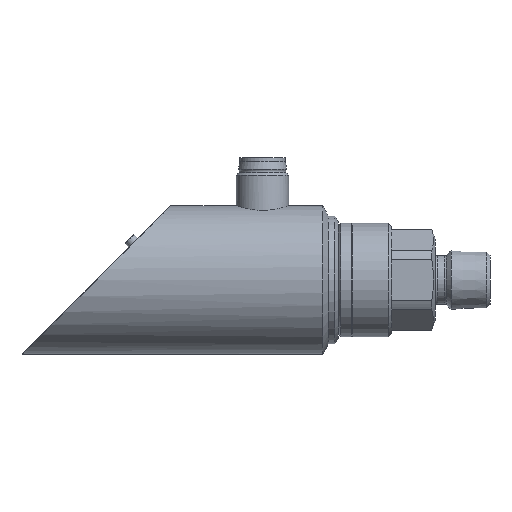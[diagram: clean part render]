
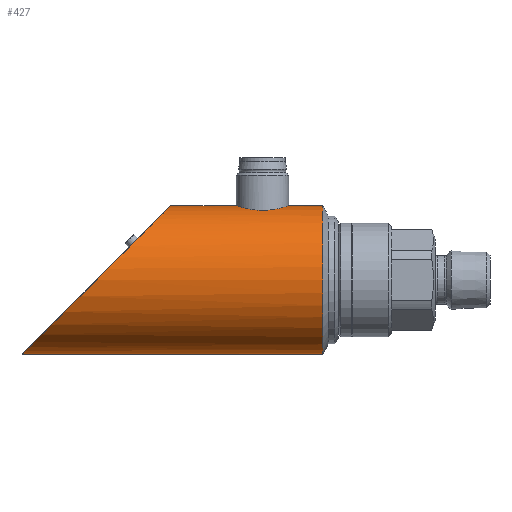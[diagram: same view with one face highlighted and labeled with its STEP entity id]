
A CAD part, left-side view. The second image highlights one B-rep face of the part: STEP entity #427.
In plain terms, the highlighted cylindrical face has radius 17 mm (diameter 34 mm), a full revolution.
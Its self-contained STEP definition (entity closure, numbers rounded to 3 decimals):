
#359=CARTESIAN_POINT('',(0.,60.107,0.0));
#360=DIRECTION('',(0.,1.0,0.0));
#361=DIRECTION('',(-1.0,0.0,0.0));
#362=AXIS2_PLACEMENT_3D('',#359,#360,#361);
#363=CYLINDRICAL_SURFACE('',#362,17.);
#364=CARTESIAN_POINT('',(0.,94.5,-17.));
#365=VERTEX_POINT('',#364);
#366=CARTESIAN_POINT('',(0.,77.5,0.0));
#367=DIRECTION('',(0.0,-0.707,-0.707));
#368=DIRECTION('',(0.,-0.707,0.707));
#369=AXIS2_PLACEMENT_3D('',#366,#367,#368);
#370=ELLIPSE('',#369,24.042,17.);
#371=EDGE_CURVE('',#365,#365,#370,.T.);
#372=ORIENTED_EDGE('',*,*,#371,.T.);
#373=EDGE_LOOP('',(#372));
#374=FACE_OUTER_BOUND('',#373,.T.);
#375=CARTESIAN_POINT('',(-6.0,39.5,15.906));
#376=VERTEX_POINT('',#375);
#377=CARTESIAN_POINT('',(-6.0,39.5,15.906));
#378=CARTESIAN_POINT('',(-6.,40.261,15.906));
#379=CARTESIAN_POINT('',(-5.847,41.067,15.966));
#380=CARTESIAN_POINT('',(-5.232,42.543,16.178));
#381=CARTESIAN_POINT('',(-4.772,43.213,16.326));
#382=CARTESIAN_POINT('',(-3.714,44.272,16.598));
#383=CARTESIAN_POINT('',(-3.043,44.732,16.742));
#384=CARTESIAN_POINT('',(-1.567,45.347,16.944));
#385=CARTESIAN_POINT('',(-0.76,45.5,17.));
#386=CARTESIAN_POINT('',(0.76,45.5,17.));
#387=CARTESIAN_POINT('',(1.567,45.347,16.944));
#388=CARTESIAN_POINT('',(3.043,44.732,16.742));
#389=CARTESIAN_POINT('',(3.714,44.272,16.598));
#390=CARTESIAN_POINT('',(4.772,43.213,16.326));
#391=CARTESIAN_POINT('',(5.232,42.543,16.178));
#392=CARTESIAN_POINT('',(5.847,41.067,15.966));
#393=CARTESIAN_POINT('',(6.,40.261,15.906));
#394=CARTESIAN_POINT('',(6.,38.739,15.906));
#395=CARTESIAN_POINT('',(5.847,37.933,15.966));
#396=CARTESIAN_POINT('',(5.232,36.457,16.178));
#397=CARTESIAN_POINT('',(4.772,35.787,16.326));
#398=CARTESIAN_POINT('',(3.714,34.728,16.598));
#399=CARTESIAN_POINT('',(3.043,34.268,16.742));
#400=CARTESIAN_POINT('',(1.567,33.653,16.944));
#401=CARTESIAN_POINT('',(0.76,33.5,17.));
#402=CARTESIAN_POINT('',(-0.76,33.5,17.));
#403=CARTESIAN_POINT('',(-1.567,33.653,16.944));
#404=CARTESIAN_POINT('',(-3.043,34.268,16.742));
#405=CARTESIAN_POINT('',(-3.714,34.728,16.598));
#406=CARTESIAN_POINT('',(-4.772,35.787,16.326));
#407=CARTESIAN_POINT('',(-5.232,36.457,16.178));
#408=CARTESIAN_POINT('',(-5.847,37.933,15.966));
#409=CARTESIAN_POINT('',(-6.,38.739,15.906));
#410=CARTESIAN_POINT('',(-6.0,39.5,15.906));
#411=B_SPLINE_CURVE_WITH_KNOTS('',3,(#377,#378,#379,#380,#381,#382,#383,#384,#385,#386,#387,#388,#389,#390,#391,#392,#393,#394,#395,#396,#397,#398,#399,#400,#401,#402,#403,#404,#405,#406,#407,#408,#409,#410),.UNSPECIFIED.,.T.,.U.,(4,2,2,2,2,2,2,2,2,2,2,2,2,2,2,2,4),(0.0,0.228,0.456,0.685,0.913,1.141,1.369,1.597,1.825,2.053,2.282,2.51,2.738,2.966,3.194,3.422,3.65),.UNSPECIFIED.);
#412=EDGE_CURVE('',#376,#376,#411,.T.);
#413=ORIENTED_EDGE('',*,*,#412,.T.);
#414=EDGE_LOOP('',(#413));
#415=FACE_BOUND('',#414,.T.);
#416=CARTESIAN_POINT('',(-17.,25.713,0.0));
#417=VERTEX_POINT('',#416);
#418=CARTESIAN_POINT('',(0.,25.713,0.0));
#419=DIRECTION('',(0.0,1.0,0.0));
#420=DIRECTION('',(-1.0,0.0,0.0));
#421=AXIS2_PLACEMENT_3D('',#418,#419,#420);
#422=CIRCLE('',#421,17.0);
#423=EDGE_CURVE('',#417,#417,#422,.T.);
#424=ORIENTED_EDGE('',*,*,#423,.T.);
#425=EDGE_LOOP('',(#424));
#426=FACE_BOUND('',#425,.T.);
#427=ADVANCED_FACE('',(#374,#415,#426),#363,.T.);
